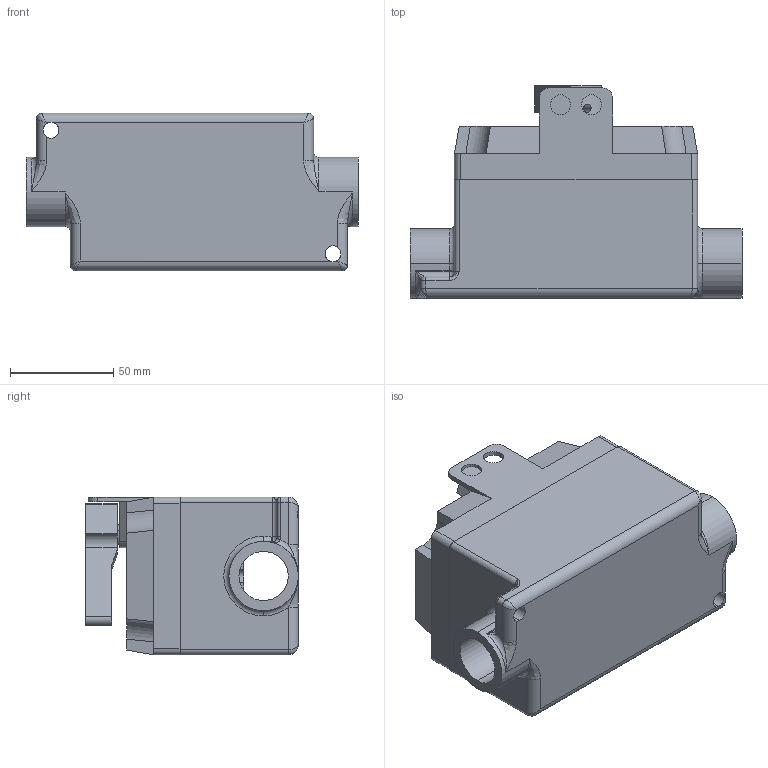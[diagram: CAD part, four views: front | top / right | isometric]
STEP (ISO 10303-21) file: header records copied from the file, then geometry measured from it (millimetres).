
FILE_DESCRIPTION (( 'STEP AP203' ), '1' );
FILE_NAME ('EPS-10A-DPST-34-FT-3P.STEP', '2025-08-14T20:29:10', ( '' ), ( '' ), 'SwSTEP 2.0', 'SolidWorks 2020', '' );
FILE_SCHEMA (( 'CONFIG_CONTROL_DESIGN' ));
Length unit declared in the file: inch
Products named in the file (11): pan slot head_ai_SL-PHMS 0.125-40x0.25x0.25-N; Handle Bolt_Handle Bolt; Switch_Switch; EPS-25A-COVER_EPS-PB10-MS-SB; Switch Handle_Switch Handle; EPS-PB10-MS-BM_EPS-10A-DPST-34-FT-3P; countersunk bolt_ai_CSBOLT 0.2500-20x0.625x0.625-S-N; EPS-10A-DPST-34-FT-3P; EPS-25A-COVER_EPS-25A-COVER; Switch Pusher; external tooth lock washer_ai
Assembly tree (14 placements, depth 3):
  EPS-10A-DPST-34-FT-3P
    EPS-PB10-MS-BM_EPS-10A-DPST-34-FT-3P
    EPS-25A-COVER_EPS-25A-COVER
      EPS-25A-COVER_EPS-PB10-MS-SB
      Handle Bolt_Handle Bolt
      Switch Handle_Switch Handle
      Switch Pusher
      external tooth lock washer_ai
    Switch_Switch
    pan slot head_ai_SL-PHMS 0.125-40x0.25x0.25-N  x2
    countersunk bolt_ai_CSBOLT 0.2500-20x0.625x0.625-S-N  x4
Bounding box: 160.4 x 102.7 x 76.2 mm (x, y, z)
Volume: 470383.2 mm3; surface area: 121145.3 mm2
Topology: 13 solids, 13 shells, 463 faces, 1219 edges, 767 vertices
Faces by surface type: plane 222, cylinder 172, cone 30, torus 18, bspline 18, sphere 3
Entity records: 15298 total; most frequent: CARTESIAN_POINT 3625, DIRECTION 2212, ORIENTED_EDGE 2162, EDGE_CURVE 1081, AXIS2_PLACEMENT_3D 776, VERTEX_POINT 693, VECTOR 660, LINE 660
